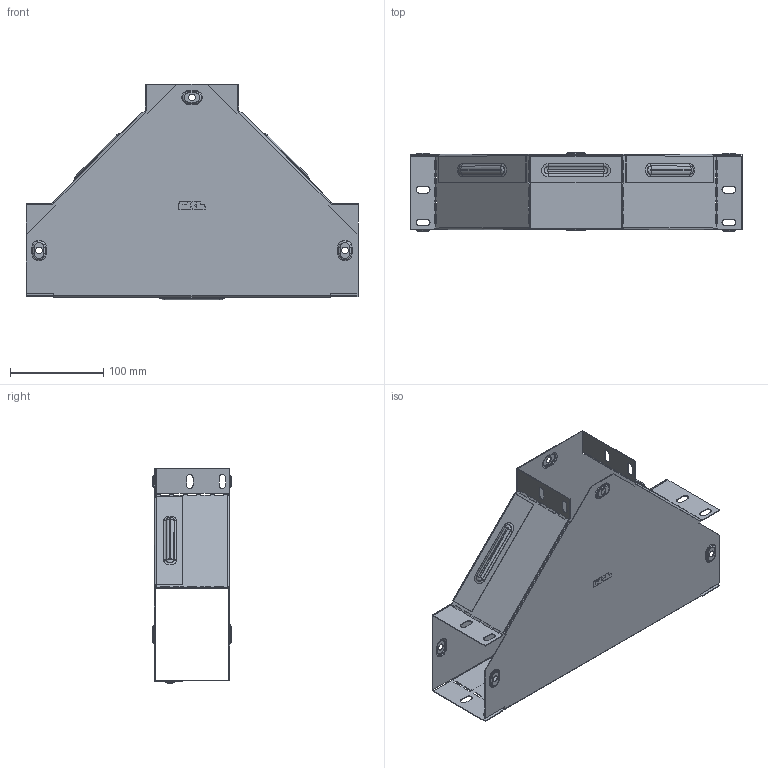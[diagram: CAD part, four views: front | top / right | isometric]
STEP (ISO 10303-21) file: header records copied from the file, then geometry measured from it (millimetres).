
FILE_DESCRIPTION (( 'STEP AP214' ), '1' );
FILE_NAME ('t8010008_捘.STEP', '2019-06-10T08:12:24', ( '砐錪賧瘔蠈錪 Windows' ), ( '' ), 'SwSTEP 2.0', 'SolidWorks 2018', '' );
FILE_SCHEMA (( 'AUTOMOTIVE_DESIGN' ));
Length unit declared in the file: millimetre
Products named in the file (1): t8010008_捘
Bounding box: 356.4 x 83.8 x 231 mm (x, y, z)
Volume: 150404.6 mm3; surface area: 379561.2 mm2
Topology: 2 solids, 2 shells, 716 faces, 2040 edges, 1324 vertices
Faces by surface type: plane 394, cylinder 208, torus 96, bspline 18
Entity records: 24409 total; most frequent: CARTESIAN_POINT 5161, ORIENTED_EDGE 4080, DIRECTION 3962, EDGE_CURVE 2040, VECTOR 1444, LINE 1444, VERTEX_POINT 1324, AXIS2_PLACEMENT_3D 1259
